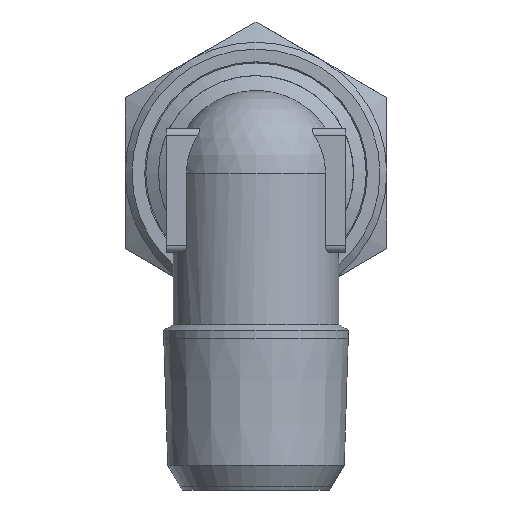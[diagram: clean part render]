
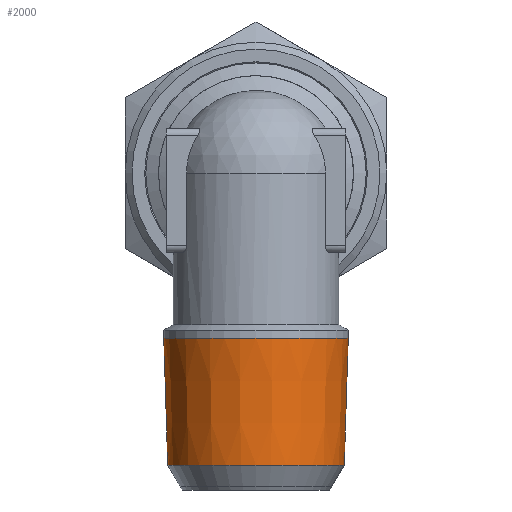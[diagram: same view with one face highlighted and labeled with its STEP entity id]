
A CAD part, left-side view. The second image highlights one B-rep face of the part: STEP entity #2000.
In plain terms, the highlighted conical face has half-angle 1.79 degrees and reference radius 6.694 mm.
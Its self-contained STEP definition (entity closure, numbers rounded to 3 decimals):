
#2000=ADVANCED_FACE('', (#2010,#2020), #2030, .T.);
#7850=AXIS2_PLACEMENT_3D('Ax2Pl3d', #7860, #7870, #7880);
#7890=AXIS2_PLACEMENT_3D('Ax2Pl3d', #7900, #7910, #7920);
#7930=AXIS2_PLACEMENT_3D('Ax2Pl3d', #7940, #7950, #7960);
#7860=CARTESIAN_POINT('HicPkt', (23.448,15.398,
25.583));
#7900=CARTESIAN_POINT('HicPkt', (23.448,15.398,
16.383));
#53670=CARTESIAN_POINT('', (23.448,8.991,16.383));
#7940=CARTESIAN_POINT('HicPkt', (23.448,15.398,
25.583));
#53680=CARTESIAN_POINT('', (23.448,22.092,25.583));
#54610=CIRCLE('Circle', #7890, 6.407);
#54620=CIRCLE('Circle', #7930, 6.694);
#2030=CONICAL_SURFACE('Kegel', #7850, 6.694, 
0.031);
#7870=DIRECTION('Axis', (0.,0.,1.));
#7880=DIRECTION('RefDirection', (1.,0.,-0.));
#7910=DIRECTION('Axis', (0.,0.,-1.));
#7920=DIRECTION('RefDirection', (-1.,-0.,0.));
#7950=DIRECTION('Axis', (0.,0.,1.));
#7960=DIRECTION('RefDirection', (1.,0.,-0.));
#63350=EDGE_CURVE('', #63360, #63360, #54610, .T.);
#63370=EDGE_CURVE('', #63380, #63380, #54620, .T.);
#67640=EDGE_LOOP('Edge_loop', (#67650));
#67660=EDGE_LOOP('Edge_loop', (#67670));
#2020=FACE_BOUND('', #67660, .T.);
#2010=FACE_OUTER_BOUND('Face_outer_bound', #67640, .T.);
#67650=ORIENTED_EDGE('', *, *, #63350, .F.);
#67670=ORIENTED_EDGE('', *, *, #63370, .F.);
#63360=VERTEX_POINT('', #53670);
#63380=VERTEX_POINT('', #53680);
